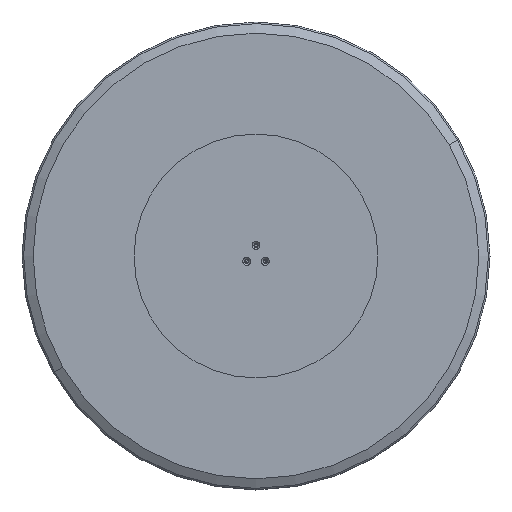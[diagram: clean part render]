
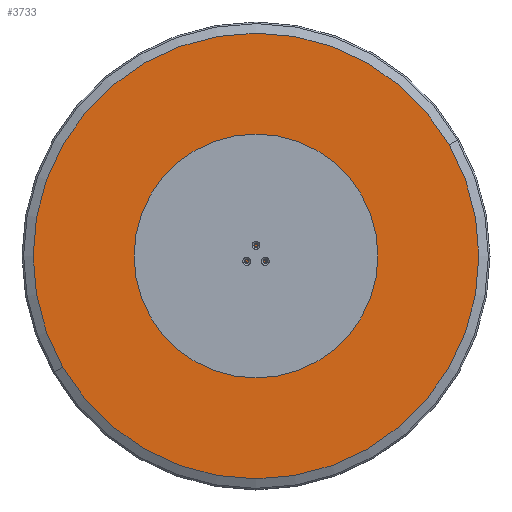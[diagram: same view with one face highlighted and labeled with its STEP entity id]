
A CAD part, front view. The second image highlights one B-rep face of the part: STEP entity #3733.
In plain terms, the highlighted planar face has unit normal (0, -1, 0).
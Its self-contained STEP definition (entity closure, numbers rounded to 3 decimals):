
#12 = FACE_BOUND ( 'NONE', #3628, .T. ) ;
#118 = VERTEX_POINT ( 'NONE', #3638 ) ;
#133 = VERTEX_POINT ( 'NONE', #3461 ) ;
#160 = VERTEX_POINT ( 'NONE', #4032 ) ;
#188 = DIRECTION ( 'NONE',  ( 0., 1., 0. ) ) ;
#228 = DIRECTION ( 'NONE',  ( 0., 0., 1. ) ) ;
#242 = EDGE_CURVE ( 'NONE', #3627, #118, #882, .T. ) ;
#283 = CARTESIAN_POINT ( 'NONE',  ( 0., 0., 0. ) ) ;
#322 = AXIS2_PLACEMENT_3D ( 'NONE', #4106, #188, #228 ) ;
#419 = CARTESIAN_POINT ( 'NONE',  ( 0., 0., 109.697 ) ) ;
#487 = DIRECTION ( 'NONE',  ( 0., 1., 0. ) ) ;
#488 = AXIS2_PLACEMENT_3D ( 'NONE', #2708, #4040, #1058 ) ;
#617 = VERTEX_POINT ( 'NONE', #3939 ) ;
#636 = CARTESIAN_POINT ( 'NONE',  ( -95., 0., -54.848 ) ) ;
#739 = ORIENTED_EDGE ( 'NONE', *, *, #3196, .T. ) ;
#778 = VERTEX_POINT ( 'NONE', #2308 ) ;
#813 = EDGE_CURVE ( 'NONE', #778, #3354, #1600, .T. ) ;
#831 = CARTESIAN_POINT ( 'NONE',  ( 0., 0., -484.323 ) ) ;
#875 = CARTESIAN_POINT ( 'NONE',  ( 95., 0., -54.848 ) ) ;
#882 = CIRCLE ( 'NONE', #4217, 3.4 ) ;
#910 = ORIENTED_EDGE ( 'NONE', *, *, #2202, .T. ) ;
#956 = CIRCLE ( 'NONE', #3862, 484.323 ) ;
#957 = DIRECTION ( 'NONE',  ( 0., 1., 0. ) ) ;
#1056 = EDGE_LOOP ( 'NONE', ( #910, #739 ) ) ;
#1058 = DIRECTION ( 'NONE',  ( 0., 0., 1. ) ) ;
#1080 = PLANE ( 'NONE',  #3130 ) ;
#1152 = CIRCLE ( 'NONE', #2818, 3.4 ) ;
#1280 = VERTEX_POINT ( 'NONE', #4289 ) ;
#1310 = DIRECTION ( 'NONE',  ( 0., 1., 0. ) ) ;
#1413 = EDGE_LOOP ( 'NONE', ( #3521, #3869 ) ) ;
#1425 = CARTESIAN_POINT ( 'NONE',  ( 0., 0., 0. ) ) ;
#1431 = AXIS2_PLACEMENT_3D ( 'NONE', #636, #1310, #2301 ) ;
#1515 = DIRECTION ( 'NONE',  ( 0., 0., 1. ) ) ;
#1600 = CIRCLE ( 'NONE', #488, 484.323 ) ;
#1609 = DIRECTION ( 'NONE',  ( 0., 0., 1. ) ) ;
#1672 = EDGE_CURVE ( 'NONE', #3354, #778, #956, .T. ) ;
#1797 = CARTESIAN_POINT ( 'NONE',  ( 0., 0., 113.097 ) ) ;
#1839 = CIRCLE ( 'NONE', #4124, 3.4 ) ;
#1985 = CARTESIAN_POINT ( 'NONE',  ( 95., 0., -54.848 ) ) ;
#2006 = FACE_OUTER_BOUND ( 'NONE', #4098, .T. ) ;
#2033 = ORIENTED_EDGE ( 'NONE', *, *, #242, .T. ) ;
#2052 = DIRECTION ( 'NONE',  ( 0., 0., 1. ) ) ;
#2124 = CIRCLE ( 'NONE', #1431, 3.4 ) ;
#2131 = DIRECTION ( 'NONE',  ( 0., 0., 1. ) ) ;
#2202 = EDGE_CURVE ( 'NONE', #617, #1280, #1839, .T. ) ;
#2251 = CIRCLE ( 'NONE', #3306, 3.4 ) ;
#2301 = DIRECTION ( 'NONE',  ( 0., 0., 1. ) ) ;
#2308 = CARTESIAN_POINT ( 'NONE',  ( 0., 0., 484.323 ) ) ;
#2315 = ORIENTED_EDGE ( 'NONE', *, *, #1672, .F. ) ;
#2403 = DIRECTION ( 'NONE',  ( 0., -1., 0. ) ) ;
#2465 = EDGE_CURVE ( 'NONE', #118, #3627, #2251, .T. ) ;
#2536 = CIRCLE ( 'NONE', #322, 3.4 ) ;
#2651 = ORIENTED_EDGE ( 'NONE', *, *, #813, .F. ) ;
#2708 = CARTESIAN_POINT ( 'NONE',  ( 0., 0., 0. ) ) ;
#2739 = DIRECTION ( 'NONE',  ( 0., 1., 0. ) ) ;
#2818 = AXIS2_PLACEMENT_3D ( 'NONE', #875, #487, #2131 ) ;
#2911 = ORIENTED_EDGE ( 'NONE', *, *, #2465, .T. ) ;
#2989 = DIRECTION ( 'NONE',  ( 0., 1., 0. ) ) ;
#3085 = FACE_BOUND ( 'NONE', #1413, .T. ) ;
#3130 = AXIS2_PLACEMENT_3D ( 'NONE', #1425, #2403, #3431 ) ;
#3188 = EDGE_CURVE ( 'NONE', #160, #133, #2536, .T. ) ;
#3196 = EDGE_CURVE ( 'NONE', #1280, #617, #1152, .T. ) ;
#3306 = AXIS2_PLACEMENT_3D ( 'NONE', #3829, #4266, #1515 ) ;
#3354 = VERTEX_POINT ( 'NONE', #831 ) ;
#3411 = EDGE_CURVE ( 'NONE', #133, #160, #2124, .T. ) ;
#3431 = DIRECTION ( 'NONE',  ( 0., 0., -1. ) ) ;
#3461 = CARTESIAN_POINT ( 'NONE',  ( -95., 0., -51.448 ) ) ;
#3521 = ORIENTED_EDGE ( 'NONE', *, *, #3411, .T. ) ;
#3627 = VERTEX_POINT ( 'NONE', #1797 ) ;
#3628 = EDGE_LOOP ( 'NONE', ( #2033, #2911 ) ) ;
#3638 = CARTESIAN_POINT ( 'NONE',  ( 0., 0., 106.297 ) ) ;
#3733 = ADVANCED_FACE ( 'NONE', ( #3085, #4008, #12, #2006 ), #1080, .T. ) ;
#3829 = CARTESIAN_POINT ( 'NONE',  ( 0., 0., 109.697 ) ) ;
#3862 = AXIS2_PLACEMENT_3D ( 'NONE', #283, #957, #1609 ) ;
#3869 = ORIENTED_EDGE ( 'NONE', *, *, #3188, .T. ) ;
#3939 = CARTESIAN_POINT ( 'NONE',  ( 95., 0., -51.448 ) ) ;
#4008 = FACE_BOUND ( 'NONE', #1056, .T. ) ;
#4032 = CARTESIAN_POINT ( 'NONE',  ( -95., 0., -58.248 ) ) ;
#4040 = DIRECTION ( 'NONE',  ( 0., 1., 0. ) ) ;
#4067 = DIRECTION ( 'NONE',  ( 0., 0., 1. ) ) ;
#4098 = EDGE_LOOP ( 'NONE', ( #2651, #2315 ) ) ;
#4106 = CARTESIAN_POINT ( 'NONE',  ( -95., 0., -54.848 ) ) ;
#4124 = AXIS2_PLACEMENT_3D ( 'NONE', #1985, #2989, #2052 ) ;
#4217 = AXIS2_PLACEMENT_3D ( 'NONE', #419, #2739, #4067 ) ;
#4266 = DIRECTION ( 'NONE',  ( 0., 1., 0. ) ) ;
#4289 = CARTESIAN_POINT ( 'NONE',  ( 95., 0., -58.248 ) ) ;
